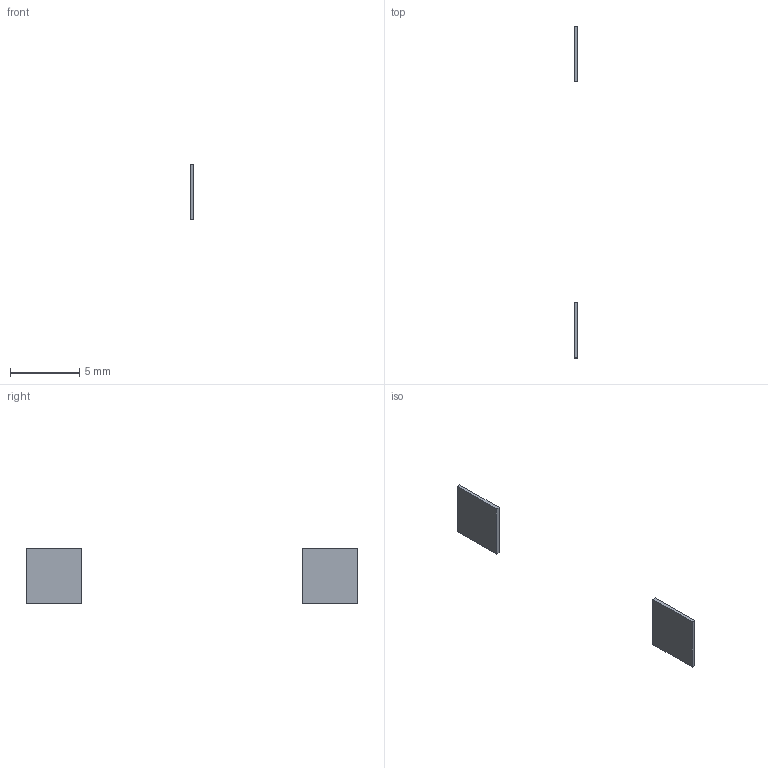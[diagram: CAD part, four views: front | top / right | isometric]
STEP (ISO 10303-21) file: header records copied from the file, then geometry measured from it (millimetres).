
FILE_DESCRIPTION(('Open CASCADE Model'),'2;1');
FILE_NAME('Volume_body_adhesive_reference','2026-09-21T22:33:41',( 'Author'),('Open CASCADE'),'Open CASCADE STEP processor 7.9', 'build123d','Unknown');
FILE_SCHEMA(('AUTOMOTIVE_DESIGN { 1 0 10303 214 1 1 1 1 }'));
Length unit declared in the file: millimetre
Products named in the file (2): Volume_body_adhesive_reference
Assembly tree (1 placements, depth 2):
  Volume_body_adhesive_reference
    Volume_body_adhesive_reference
Bounding box: 0.26 x 24 x 4 mm (x, y, z)
Volume: 8.3 mm3; surface area: 72.3 mm2
Topology: 2 solids, 2 shells, 12 faces, 24 edges, 16 vertices
Faces by surface type: plane 12
Entity records: 376 total; most frequent: CARTESIAN_POINT 54, DIRECTION 52, ORIENTED_EDGE 48, EDGE_CURVE 24, LINE 24, VECTOR 24, VERTEX_POINT 16, AXIS2_PLACEMENT_3D 14
